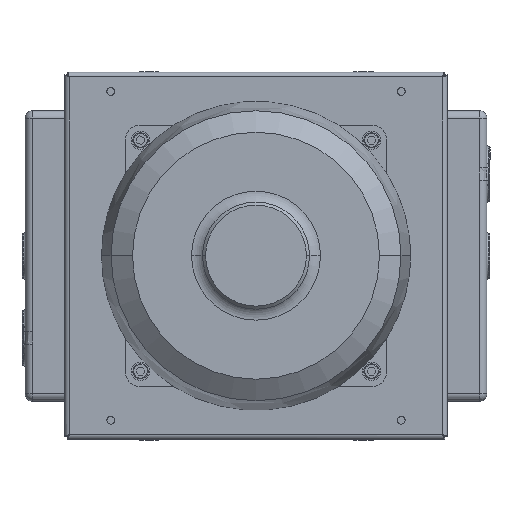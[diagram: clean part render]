
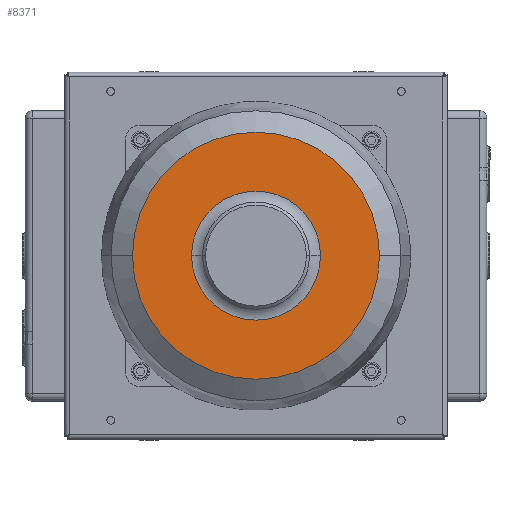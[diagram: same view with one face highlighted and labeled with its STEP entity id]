
A CAD part, top view. The second image highlights one B-rep face of the part: STEP entity #8371.
In plain terms, the highlighted planar face has unit normal (0, 0, 1).
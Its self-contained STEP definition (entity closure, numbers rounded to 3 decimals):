
#44 = ORIENTED_EDGE ( 'NONE', *, *, #17024, .T. ) ;
#122 = EDGE_CURVE ( 'NONE', #12671, #8979, #7511, .T. ) ;
#483 = DIRECTION ( 'NONE',  ( 0., 0., 1. ) ) ;
#2021 = FACE_OUTER_BOUND ( 'NONE', #6387, .T. ) ;
#2227 = CARTESIAN_POINT ( 'NONE',  ( 0., 0., 47. ) ) ;
#2722 = AXIS2_PLACEMENT_3D ( 'NONE', #3606, #483, #11615 ) ;
#2731 = CIRCLE ( 'NONE', #15524, 80.737 ) ;
#3022 = FACE_BOUND ( 'NONE', #18642, .T. ) ;
#3563 = EDGE_CURVE ( 'NONE', #17003, #13370, #9386, .T. ) ;
#3606 = CARTESIAN_POINT ( 'NONE',  ( 0., 0., 47. ) ) ;
#3834 = DIRECTION ( 'NONE',  ( 1., 0., 0. ) ) ;
#5021 = AXIS2_PLACEMENT_3D ( 'NONE', #19752, #5390, #14961 ) ;
#5390 = DIRECTION ( 'NONE',  ( 0., 0., 1. ) ) ;
#6387 = EDGE_LOOP ( 'NONE', ( #44, #11345 ) ) ;
#6820 = PLANE ( 'NONE',  #2722 ) ;
#7511 = CIRCLE ( 'NONE', #19598, 42.141 ) ;
#8191 = CARTESIAN_POINT ( 'NONE',  ( 0., 0., 47. ) ) ;
#8371 = ADVANCED_FACE ( 'NONE', ( #3022, #2021 ), #6820, .T. ) ;
#8979 = VERTEX_POINT ( 'NONE', #16240 ) ;
#9386 = CIRCLE ( 'NONE', #5021, 80.737 ) ;
#9787 = DIRECTION ( 'NONE',  ( 1., 0., 0. ) ) ;
#11345 = ORIENTED_EDGE ( 'NONE', *, *, #3563, .T. ) ;
#11615 = DIRECTION ( 'NONE',  ( 1., 0., 0. ) ) ;
#12671 = VERTEX_POINT ( 'NONE', #19527 ) ;
#12829 = CARTESIAN_POINT ( 'NONE',  ( 80.737, 0., 47. ) ) ;
#12857 = CARTESIAN_POINT ( 'NONE',  ( 0., 0., 47. ) ) ;
#12925 = DIRECTION ( 'NONE',  ( 0., 0., -1. ) ) ;
#12953 = CIRCLE ( 'NONE', #14074, 42.141 ) ;
#13360 = DIRECTION ( 'NONE',  ( 0., 0., -1. ) ) ;
#13370 = VERTEX_POINT ( 'NONE', #13852 ) ;
#13852 = CARTESIAN_POINT ( 'NONE',  ( -80.737, 0., 47. ) ) ;
#14074 = AXIS2_PLACEMENT_3D ( 'NONE', #2227, #13360, #3834 ) ;
#14961 = DIRECTION ( 'NONE',  ( 1., 0., 0. ) ) ;
#15524 = AXIS2_PLACEMENT_3D ( 'NONE', #8191, #19300, #9787 ) ;
#16240 = CARTESIAN_POINT ( 'NONE',  ( 42.141, 0., 47. ) ) ;
#17003 = VERTEX_POINT ( 'NONE', #12829 ) ;
#17024 = EDGE_CURVE ( 'NONE', #13370, #17003, #2731, .T. ) ;
#17217 = EDGE_CURVE ( 'NONE', #8979, #12671, #12953, .T. ) ;
#18464 = ORIENTED_EDGE ( 'NONE', *, *, #122, .T. ) ;
#18642 = EDGE_LOOP ( 'NONE', ( #19220, #18464 ) ) ;
#18956 = DIRECTION ( 'NONE',  ( 1., 0., 0. ) ) ;
#19220 = ORIENTED_EDGE ( 'NONE', *, *, #17217, .T. ) ;
#19300 = DIRECTION ( 'NONE',  ( 0., 0., 1. ) ) ;
#19527 = CARTESIAN_POINT ( 'NONE',  ( -42.141, 0., 47. ) ) ;
#19598 = AXIS2_PLACEMENT_3D ( 'NONE', #12857, #12925, #18956 ) ;
#19752 = CARTESIAN_POINT ( 'NONE',  ( 0., 0., 47. ) ) ;
